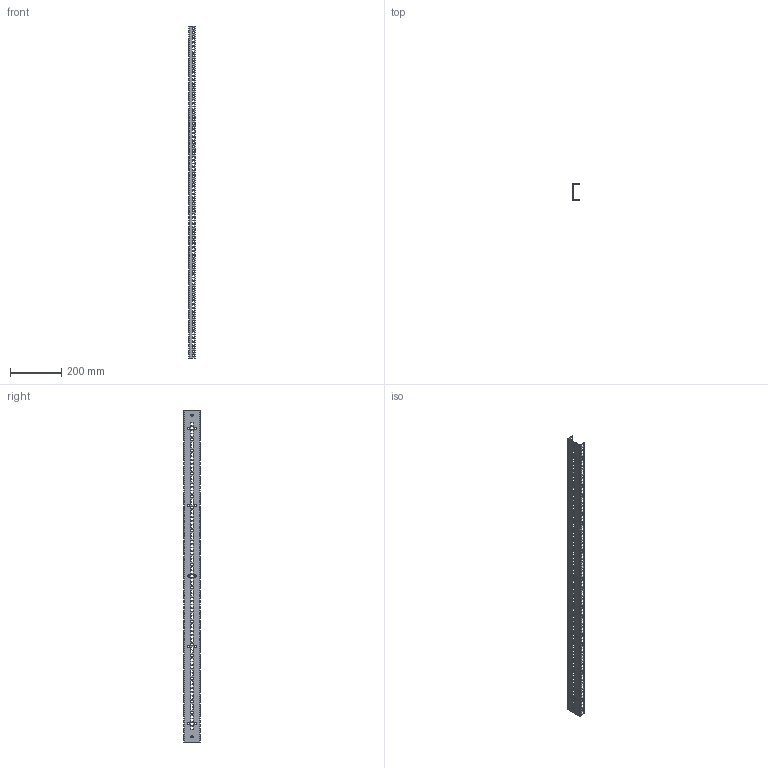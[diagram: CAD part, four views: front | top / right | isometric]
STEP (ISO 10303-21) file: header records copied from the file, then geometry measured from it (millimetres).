
FILE_DESCRIPTION (( 'STEP AP203' ), '1' );
FILE_NAME ('AERC291400.STEP', '2018-07-02T15:04:32', ( '' ), ( '' ), 'SwSTEP 2.0', 'SolidWorks 2017', '' );
FILE_SCHEMA (( 'CONFIG_CONTROL_DESIGN' ));
Length unit declared in the file: millimetre
Products named in the file (1): AERC291400
Bounding box: 24.5 x 66 x 1295 mm (x, y, z)
Volume: 235017.5 mm3; surface area: 260981.4 mm2
Topology: 1 solids, 1 shells, 1803 faces, 5387 edges, 3586 vertices
Faces by surface type: plane 1228, cylinder 575
Entity records: 61608 total; most frequent: CARTESIAN_POINT 10777, ORIENTED_EDGE 10774, DIRECTION 10145, EDGE_CURVE 5387, LINE 4237, VECTOR 4237, VERTEX_POINT 3586, AXIS2_PLACEMENT_3D 2954
